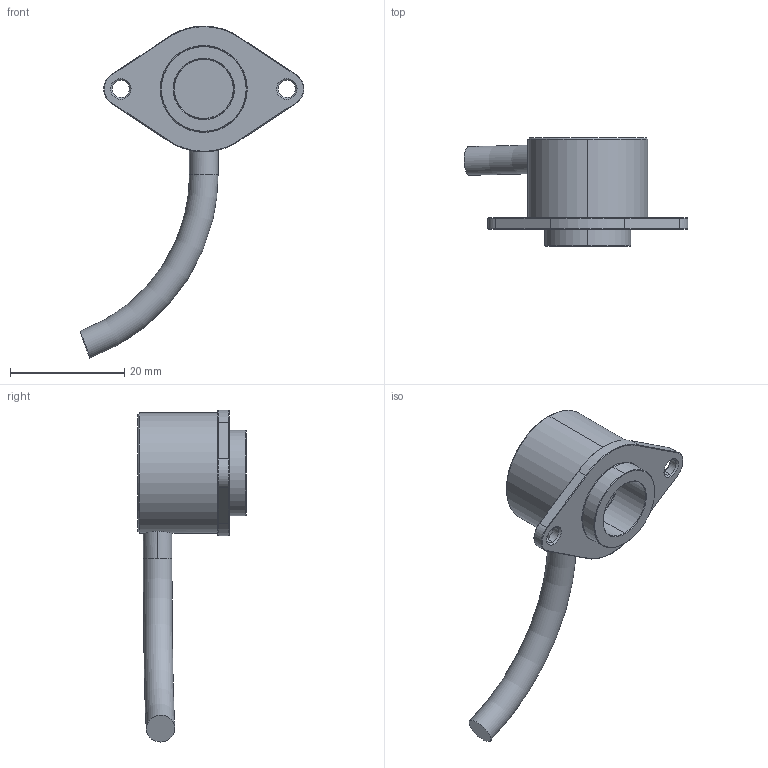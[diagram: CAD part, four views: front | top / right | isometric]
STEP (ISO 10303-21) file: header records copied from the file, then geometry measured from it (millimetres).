
FILE_DESCRIPTION (( 'STEP AP203' ), '1' );
FILE_NAME ('rm22-3d.step', '2006-09-05T13:01:27', ( 'RLS' ), ( '' ), 'SwSTEP 1.0', 'SolidWorks 1999313', '' );
FILE_SCHEMA (( 'CONFIG_CONTROL_DESIGN' ));
Length unit declared in the file: metre
Products named in the file (1): 1
Bounding box: 39.11 x 19 x 58 mm (x, y, z)
Volume: 6580.4 mm3; surface area: 3114.2 mm2
Topology: 1 solids, 1 shells, 64 faces, 141 edges, 82 vertices
Faces by surface type: cone 24, plane 18, cylinder 17, torus 5
Entity records: 1854 total; most frequent: CARTESIAN_POINT 393, DIRECTION 316, ORIENTED_EDGE 280, EDGE_CURVE 140, AXIS2_PLACEMENT_3D 131, VERTEX_POINT 82, EDGE_LOOP 72, CIRCLE 66
